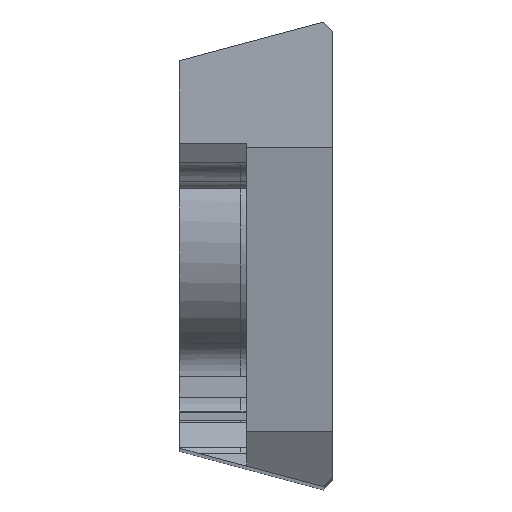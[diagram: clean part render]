
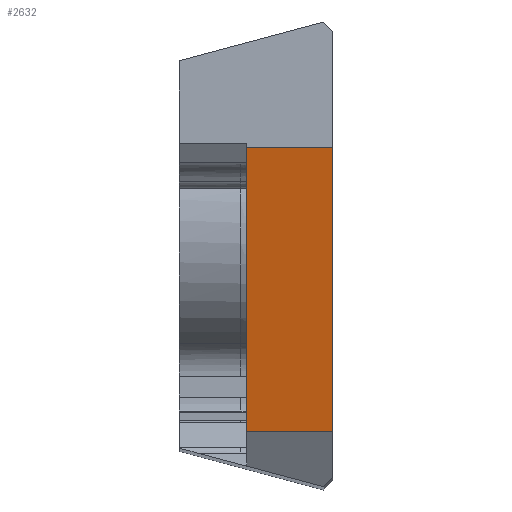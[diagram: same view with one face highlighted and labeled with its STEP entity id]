
A CAD part, top view. The second image highlights one B-rep face of the part: STEP entity #2632.
In plain terms, the highlighted planar face has unit normal (0, -0.208, 0.978).
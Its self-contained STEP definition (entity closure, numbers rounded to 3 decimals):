
#2612=AXIS2_PLACEMENT_3D('Plane Axis2P3D',#2609,#2610,#2611) ;
#1512=CARTESIAN_POINT('Control Point',(-4.766,18.939,0.)) ;
#1513=CARTESIAN_POINT('Control Point',(-4.766,15.789,-0.67)) ;
#1514=CARTESIAN_POINT('Control Point',(-4.766,12.639,-1.339)) ;
#1515=CARTESIAN_POINT('Control Point',(-4.766,9.489,-2.009)) ;
#1516=CARTESIAN_POINT('Control Point',(-4.766,6.339,-2.678)) ;
#1517=CARTESIAN_POINT('Control Point',(-4.766,3.189,-3.348)) ;
#1518=CARTESIAN_POINT('Vertex',(-4.766,3.189,-3.348)) ;
#1520=CARTESIAN_POINT('Vertex',(-4.766,18.939,0.)) ;
#2376=CARTESIAN_POINT('Line Origine',(-2.383,18.939,0.)) ;
#2380=CARTESIAN_POINT('Vertex',(0.,18.939,0.)) ;
#2609=CARTESIAN_POINT('Axis2P3D Location',(-8.5,18.939,0.)) ;
#2614=CARTESIAN_POINT('Line Origine',(-2.383,3.189,-3.348)) ;
#2618=CARTESIAN_POINT('Vertex',(0.,3.189,-3.348)) ;
#2621=CARTESIAN_POINT('Line Origine',(0.,11.064,-1.674)) ;
#2377=DIRECTION('Vector Direction',(-1.,0.,0.)) ;
#2610=DIRECTION('Axis2P3D Direction',(0.,-0.208,0.978)) ;
#2611=DIRECTION('Axis2P3D XDirection',(0.,-0.978,-0.208)) ;
#2615=DIRECTION('Vector Direction',(1.,0.,0.)) ;
#2622=DIRECTION('Vector Direction',(0.,-0.978,-0.208)) ;
#2378=VECTOR('Line Direction',#2377,1.) ;
#2616=VECTOR('Line Direction',#2615,1.) ;
#2623=VECTOR('Line Direction',#2622,1.) ;
#2627=ORIENTED_EDGE('',*,*,#2620,.T.) ;
#2628=ORIENTED_EDGE('',*,*,#2625,.F.) ;
#2629=ORIENTED_EDGE('',*,*,#2382,.T.) ;
#2630=ORIENTED_EDGE('',*,*,#1522,.F.) ;
#2632=ADVANCED_FACE('NO_CUT',(#2631),#2613,.T.) ;
#1511=B_SPLINE_CURVE_WITH_KNOTS('',5,(#1512,#1513,#1514,#1515,#1516,#1517),.UNSPECIFIED.,.F.,.U.,(6,6),(0.,16.102),.UNSPECIFIED.) ;
#1522=EDGE_CURVE('',#1519,#1521,#1511,.F.) ;
#2382=EDGE_CURVE('',#2381,#1521,#2379,.T.) ;
#2620=EDGE_CURVE('',#1519,#2619,#2617,.T.) ;
#2625=EDGE_CURVE('',#2381,#2619,#2624,.T.) ;
#2626=EDGE_LOOP('',(#2627,#2628,#2629,#2630)) ;
#2631=FACE_OUTER_BOUND('',#2626,.T.) ;
#2379=LINE('Line',#2376,#2378) ;
#2617=LINE('Line',#2614,#2616) ;
#2624=LINE('Line',#2621,#2623) ;
#2613=PLANE('',#2612) ;
#1519=VERTEX_POINT('',#1518) ;
#1521=VERTEX_POINT('',#1520) ;
#2381=VERTEX_POINT('',#2380) ;
#2619=VERTEX_POINT('',#2618) ;
